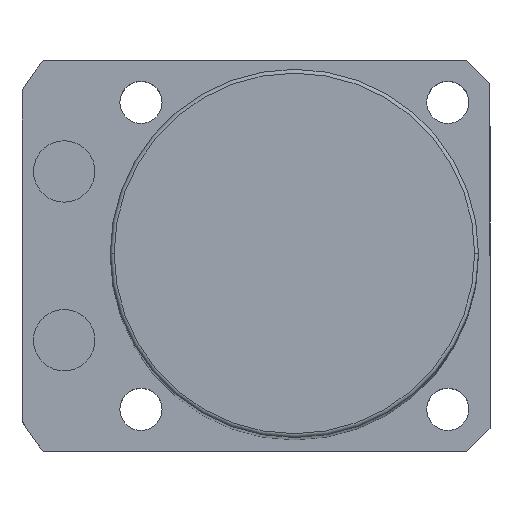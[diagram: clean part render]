
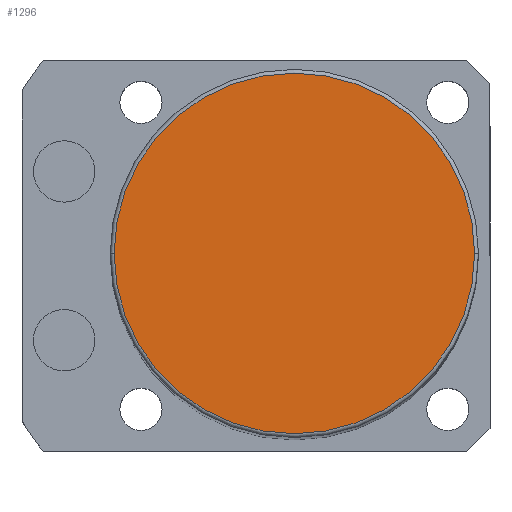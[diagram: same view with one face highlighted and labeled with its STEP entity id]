
A CAD part, top view. The second image highlights one B-rep face of the part: STEP entity #1296.
In plain terms, the highlighted planar face has unit normal (0, 0, 1).
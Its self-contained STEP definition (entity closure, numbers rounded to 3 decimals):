
#122 = PLANE ( 'NONE',  #1890 ) ;
#295 = CIRCLE ( 'NONE', #2596, 23.5 ) ;
#297 = DIRECTION ( 'NONE',  ( 0., 0., 1. ) ) ;
#523 = DIRECTION ( 'NONE',  ( 1., 0., 0. ) ) ;
#672 = VERTEX_POINT ( 'NONE', #1449 ) ;
#713 = CARTESIAN_POINT ( 'NONE',  ( 0., 0., 191. ) ) ;
#885 = EDGE_CURVE ( 'NONE', #1968, #672, #1385, .T. ) ;
#975 = FACE_OUTER_BOUND ( 'NONE', #1564, .T. ) ;
#1154 = DIRECTION ( 'NONE',  ( 0., 0., 1. ) ) ;
#1196 = EDGE_CURVE ( 'NONE', #672, #1968, #295, .T. ) ;
#1296 = ADVANCED_FACE ( 'NONE', ( #975 ), #122, .T. ) ;
#1367 = ORIENTED_EDGE ( 'NONE', *, *, #885, .T. ) ;
#1372 = DIRECTION ( 'NONE',  ( 1., 0., 0. ) ) ;
#1385 = CIRCLE ( 'NONE', #2338, 23.5 ) ;
#1449 = CARTESIAN_POINT ( 'NONE',  ( -23.5, 0., 191. ) ) ;
#1527 = ORIENTED_EDGE ( 'NONE', *, *, #1196, .T. ) ;
#1564 = EDGE_LOOP ( 'NONE', ( #1367, #1527 ) ) ;
#1710 = CARTESIAN_POINT ( 'NONE',  ( 23.5, 0., 191. ) ) ;
#1801 = DIRECTION ( 'NONE',  ( 1., 0., 0. ) ) ;
#1805 = DIRECTION ( 'NONE',  ( 0., 0., 1. ) ) ;
#1890 = AXIS2_PLACEMENT_3D ( 'NONE', #2423, #1154, #1372 ) ;
#1968 = VERTEX_POINT ( 'NONE', #1710 ) ;
#2199 = CARTESIAN_POINT ( 'NONE',  ( 0., 0., 191. ) ) ;
#2338 = AXIS2_PLACEMENT_3D ( 'NONE', #2199, #297, #1801 ) ;
#2423 = CARTESIAN_POINT ( 'NONE',  ( 0., 0., 191. ) ) ;
#2596 = AXIS2_PLACEMENT_3D ( 'NONE', #713, #1805, #523 ) ;
